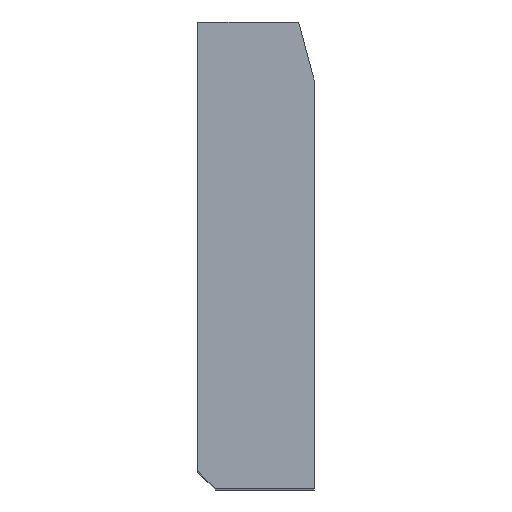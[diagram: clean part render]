
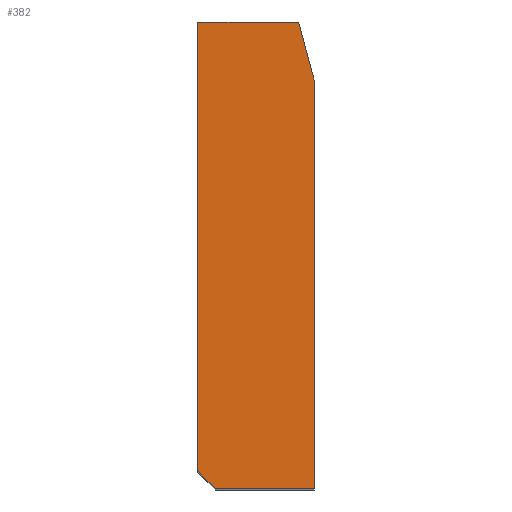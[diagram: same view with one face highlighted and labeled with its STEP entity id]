
A CAD part, top view. The second image highlights one B-rep face of the part: STEP entity #382.
In plain terms, the highlighted planar face has unit normal (0, 0, 1).
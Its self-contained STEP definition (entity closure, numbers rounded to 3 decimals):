
#70=CARTESIAN_POINT('Vertex',(0.,3.,80.)) ;
#73=CARTESIAN_POINT('Line Origine',(0.,41.5,80.)) ;
#77=CARTESIAN_POINT('Vertex',(0.,80.,80.)) ;
#320=CARTESIAN_POINT('Vertex',(3.,0.,80.)) ;
#323=CARTESIAN_POINT('Line Origine',(1.5,1.5,80.)) ;
#335=CARTESIAN_POINT('Axis2P3D Location',(15.,69.342,80.)) ;
#340=CARTESIAN_POINT('Line Origine',(11.5,0.,80.)) ;
#344=CARTESIAN_POINT('Vertex',(20.,0.,80.)) ;
#347=CARTESIAN_POINT('Line Origine',(20.,34.671,80.)) ;
#351=CARTESIAN_POINT('Vertex',(20.,69.342,80.)) ;
#354=CARTESIAN_POINT('Axis2P3D Location',(15.,69.342,80.)) ;
#358=CARTESIAN_POINT('Vertex',(19.83,70.636,80.)) ;
#361=CARTESIAN_POINT('Line Origine',(18.575,75.318,80.)) ;
#365=CARTESIAN_POINT('Vertex',(17.321,80.,80.)) ;
#368=CARTESIAN_POINT('Line Origine',(8.66,80.,80.)) ;
#74=DIRECTION('Vector Direction',(0.,-1.,0.)) ;
#324=DIRECTION('Vector Direction',(0.707,-0.707,0.)) ;
#336=DIRECTION('Axis2P3D Direction',(0.,0.,1.)) ;
#337=DIRECTION('Axis2P3D XDirection',(1.,0.,-0.)) ;
#341=DIRECTION('Vector Direction',(1.,0.,0.)) ;
#348=DIRECTION('Vector Direction',(0.,1.,0.)) ;
#355=DIRECTION('Axis2P3D Direction',(0.,0.,1.)) ;
#362=DIRECTION('Vector Direction',(-0.259,0.966,0.)) ;
#369=DIRECTION('Vector Direction',(-1.,0.,0.)) ;
#338=AXIS2_PLACEMENT_3D('Plane Axis2P3D',#335,#336,#337) ;
#356=AXIS2_PLACEMENT_3D('Circle Axis2P3D',#354,#355,$) ;
#374=ORIENTED_EDGE('',*,*,#79,.T.) ;
#375=ORIENTED_EDGE('',*,*,#327,.T.) ;
#376=ORIENTED_EDGE('',*,*,#346,.T.) ;
#377=ORIENTED_EDGE('',*,*,#353,.T.) ;
#378=ORIENTED_EDGE('',*,*,#360,.T.) ;
#379=ORIENTED_EDGE('',*,*,#367,.T.) ;
#380=ORIENTED_EDGE('',*,*,#372,.T.) ;
#75=VECTOR('Line Direction',#74,1.) ;
#325=VECTOR('Line Direction',#324,1.) ;
#342=VECTOR('Line Direction',#341,1.) ;
#349=VECTOR('Line Direction',#348,1.) ;
#363=VECTOR('Line Direction',#362,1.) ;
#370=VECTOR('Line Direction',#369,1.) ;
#382=ADVANCED_FACE('A915-160X80',(#381),#339,.T.) ;
#357=CIRCLE('generated circle',#356,5.) ;
#79=EDGE_CURVE('',#78,#71,#76,.T.) ;
#327=EDGE_CURVE('',#71,#321,#326,.T.) ;
#346=EDGE_CURVE('',#321,#345,#343,.T.) ;
#353=EDGE_CURVE('',#345,#352,#350,.T.) ;
#360=EDGE_CURVE('',#352,#359,#357,.T.) ;
#367=EDGE_CURVE('',#359,#366,#364,.T.) ;
#372=EDGE_CURVE('',#366,#78,#371,.T.) ;
#373=EDGE_LOOP('',(#374,#375,#376,#377,#378,#379,#380)) ;
#381=FACE_OUTER_BOUND('',#373,.T.) ;
#76=LINE('Line',#73,#75) ;
#326=LINE('Line',#323,#325) ;
#343=LINE('Line',#340,#342) ;
#350=LINE('Line',#347,#349) ;
#364=LINE('Line',#361,#363) ;
#371=LINE('Line',#368,#370) ;
#339=PLANE('Plane',#338) ;
#71=VERTEX_POINT('',#70) ;
#78=VERTEX_POINT('',#77) ;
#321=VERTEX_POINT('',#320) ;
#345=VERTEX_POINT('',#344) ;
#352=VERTEX_POINT('',#351) ;
#359=VERTEX_POINT('',#358) ;
#366=VERTEX_POINT('',#365) ;
